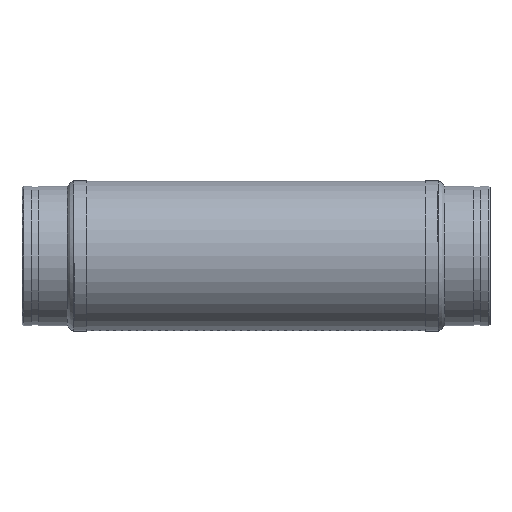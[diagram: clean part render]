
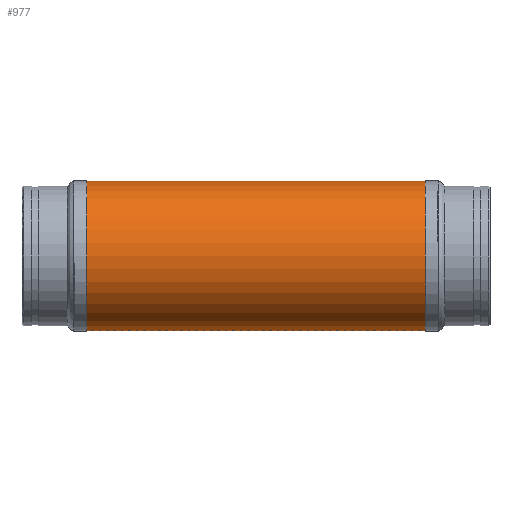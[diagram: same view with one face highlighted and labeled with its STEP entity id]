
A CAD part, left-side view. The second image highlights one B-rep face of the part: STEP entity #977.
In plain terms, the highlighted cylindrical face has radius 146.152 mm (diameter 292.303 mm), a full revolution.
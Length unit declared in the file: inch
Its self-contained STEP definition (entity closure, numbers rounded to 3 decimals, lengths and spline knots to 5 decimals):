
#943=CARTESIAN_POINT('',(-5.754,-14.,0.));
#944=VERTEX_POINT('',#943);
#945=CARTESIAN_POINT('',(0.0,-14.,0.0));
#946=DIRECTION('',(0.0,1.0,0.0));
#947=DIRECTION('',(1.0,0.0,0.0));
#948=AXIS2_PLACEMENT_3D('',#945,#946,#947);
#949=CIRCLE('',#948,5.754);
#950=EDGE_CURVE('',#944,#944,#949,.T.);
#958=CARTESIAN_POINT('',(0.0,0.0,0.0));
#959=DIRECTION('',(0.0,1.0,0.0));
#960=DIRECTION('',(1.0,0.0,0.0));
#961=AXIS2_PLACEMENT_3D('',#958,#959,#960);
#962=CYLINDRICAL_SURFACE('',#961,5.754);
#963=ORIENTED_EDGE('',*,*,#950,.T.);
#964=EDGE_LOOP('',(#963));
#965=FACE_OUTER_BOUND('',#964,.T.);
#966=CARTESIAN_POINT('',(-5.754,14.,0.));
#967=VERTEX_POINT('',#966);
#968=CARTESIAN_POINT('',(0.0,14.,0.0));
#969=DIRECTION('',(0.0,-1.0,0.0));
#970=DIRECTION('',(1.0,0.0,0.0));
#971=AXIS2_PLACEMENT_3D('',#968,#969,#970);
#972=CIRCLE('',#971,5.754);
#973=EDGE_CURVE('',#967,#967,#972,.T.);
#974=ORIENTED_EDGE('',*,*,#973,.T.);
#975=EDGE_LOOP('',(#974));
#976=FACE_BOUND('',#975,.T.);
#977=ADVANCED_FACE('',(#965,#976),#962,.T.);
